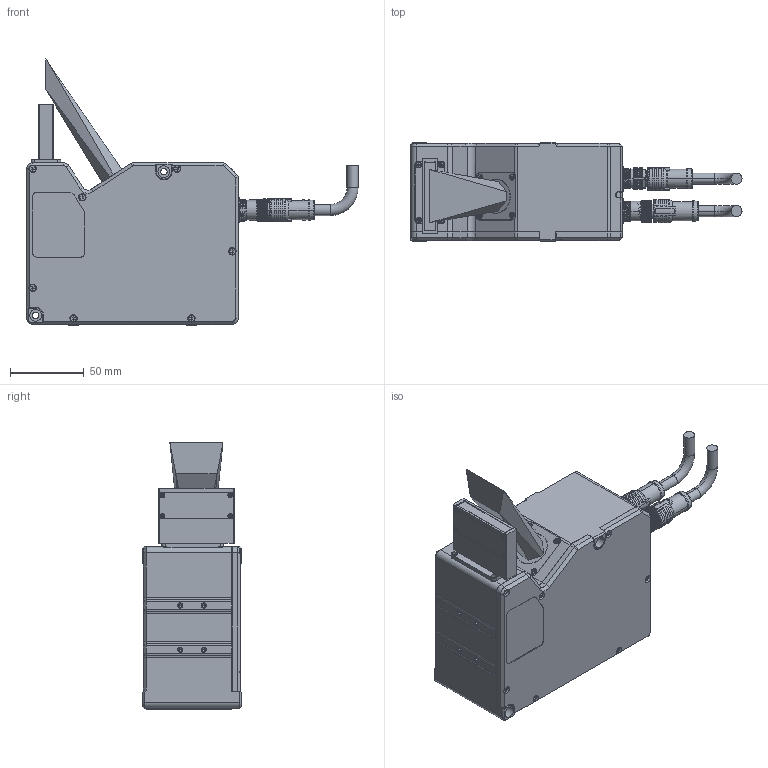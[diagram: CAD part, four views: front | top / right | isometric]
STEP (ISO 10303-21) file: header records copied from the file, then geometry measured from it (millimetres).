
FILE_DESCRIPTION((''),'2;1');
FILE_NAME('00-ALL-DP4060-NEW2_SW00010','2026-04-07T19:37:29',('zouzichao'),(''),'CREO PARAMETRIC BY PTC INC, 2020044','CREO PARAMETRIC BY PTC INC, 2020044','');
FILE_SCHEMA(('AUTOMOTIVE_DESIGN { 1 0 10303 214 1 1 1 1 }'));
Products named in the file (1): 00-ALL-DP4060-NEW2_SW00010
Bounding box: 225.25 x 67 x 180.5 mm (x, y, z)
Surface area: 88026.5 mm2 (no closed solid volume)
Topology: 0 solids, 94 shells, 1346 faces, 4729 edges, 3396 vertices
Faces by surface type: plane 719, cylinder 397, cone 124, torus 57, bspline 47, extrusion 2
Entity records: 65119 total; most frequent: CARTESIAN_POINT 26016, DIRECTION 7993, ORIENTED_EDGE 7365, EDGE_CURVE 4699, VERTEX_POINT 3396, AXIS2_PLACEMENT_3D 2708, VECTOR 2577, LINE 2575
